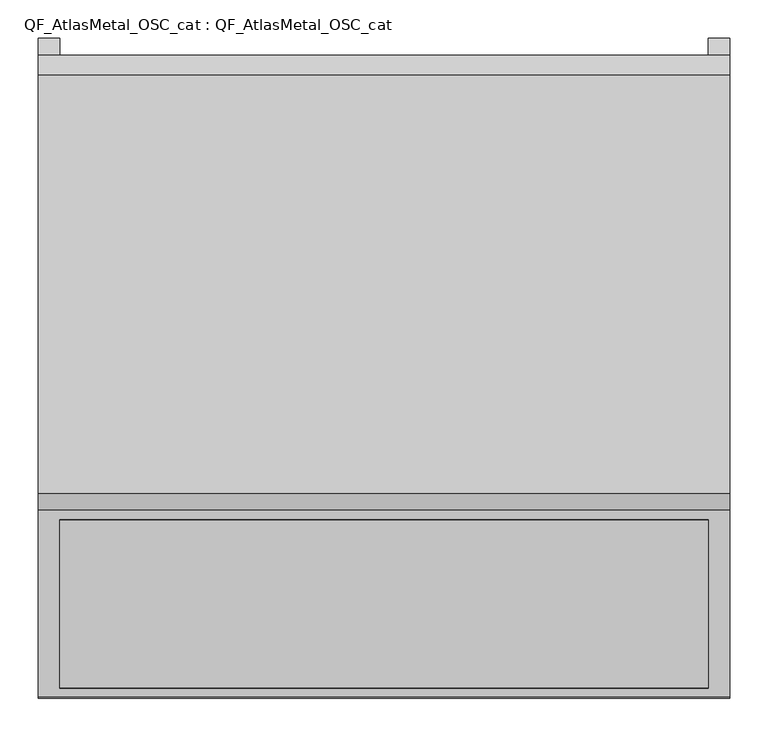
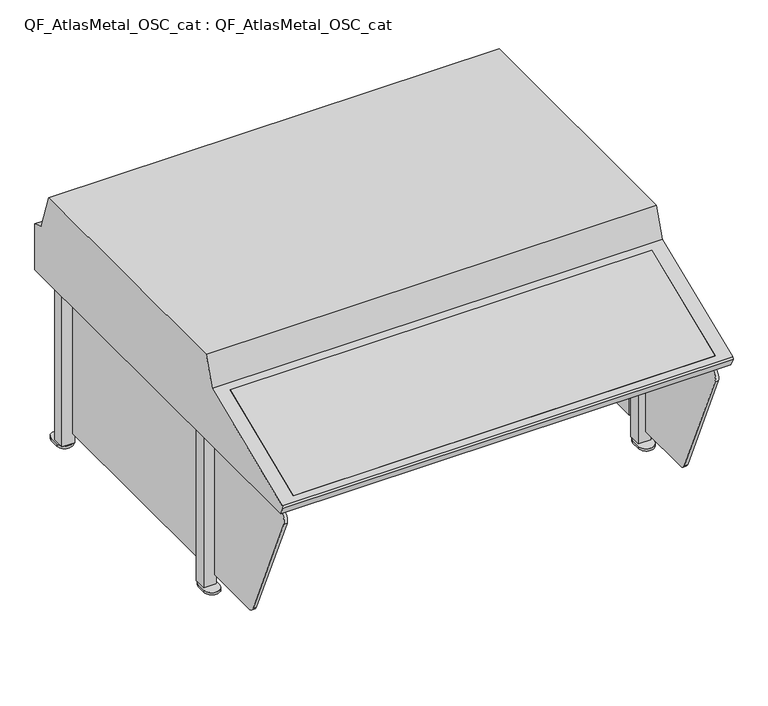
"""IFC4 building model written with IfcOpenShell, lengths in millimetres: proxy geometry, QF_AtlasMetal_OSC_cat : QF_AtlasMetal_OSC_cat."""

from ifc_helpers import new_model, si_unit, point, frame, frame_2d, origin, origin_with_axes, place, context, project, spatial, polyline, circle_curve, trimmed, segment, composite_curve, outline, extrude, source, transform, mapped, element, save
from ifc_brep_helpers import plane_surface, cylinder_surface, advanced_brep


def qf_atlasmetal_osc_cat_qf_atlasmetal_osc_cat_4fe1f685(model_context):
    return source(origin(), model_context, "Body", "SolidModel", [
        extrude(outline(composite_curve([segment(polyline([(-880.5035504, 314.325), (-652.4625, 314.325), (-652.4625, 38.1), (-772.9345504, 38.1)]), True, "CONTINUOUS"), segment(trimmed(circle_curve(frame_2d((-772.9345504, 53.975)), 15.875), [point((-772.9345504, 38.1))], [point((-787.4651765, 47.5815245))], False, "CARTESIAN"), True, "CONTINUOUS"), segment(polyline([(-787.4651765, 47.5815245), (-895.0341765, 292.0565245)]), True, "CONTINUOUS"), segment(trimmed(circle_curve(frame_2d((-880.5035504, 298.45)), 15.875), [point((-895.0341765, 292.0565245))], [point((-880.5035504, 314.325))], False, "CARTESIAN"), True, "CONTINUOUS")], self_intersect=False)), frame((490.4555745, 0.0, 0.0), z_axis=(1.0, 0.0, 0.0), x_axis=(0.0, 1.0, 0.0)), (0.0, 0.0, 1.0), 6.35),
        extrude(outline(composite_curve([segment(polyline([(-652.4625, 38.1), (-772.9345504, 38.1)]), True, "CONTINUOUS"), segment(trimmed(circle_curve(frame_2d((-772.9345504, 53.975)), 15.875), [point((-772.9345504, 38.1))], [point((-787.4651765, 47.5815245))], False, "CARTESIAN"), True, "CONTINUOUS"), segment(polyline([(-787.4651765, 47.5815245), (-895.0341765, 292.0565245)]), True, "CONTINUOUS"), segment(trimmed(circle_curve(frame_2d((-880.5035504, 298.45)), 15.875), [point((-895.0341765, 292.0565245))], [point((-880.5035504, 314.325))], False, "CARTESIAN"), True, "CONTINUOUS"), segment(polyline([(-880.5035504, 314.325), (-652.4625, 314.325), (-652.4625, 38.1)]), True, "CONTINUOUS")], self_intersect=False)), frame((-379.4944255, 0.0, 0.0), z_axis=(1.0, 0.0, 0.0), x_axis=(0.0, 1.0, 0.0)), (0.0, 0.0, 1.0), 6.35),
        extrude(outline(polyline([(496.8055745, -157.1625), (496.8055745, -595.3125), (490.4555745, -595.3125), (490.4555745, -157.1625), (496.8055745, -157.1625)])), frame((0.0, 0.0, 38.1), z_axis=(0.0, 0.0, 1.0), x_axis=(1.0, 0.0, 0.0)), (0.0, 0.0, 1.0), 276.225),
        extrude(outline(polyline([(-373.1444255, -157.1625), (-373.1444255, -595.3125), (-379.4944255, -595.3125), (-379.4944255, -157.1625), (-373.1444255, -157.1625)])), frame((0.0, 0.0, 38.1), z_axis=(0.0, 0.0, 1.0), x_axis=(1.0, 0.0, 0.0)), (0.0, 0.0, 1.0), 276.225),
        extrude(outline(polyline([(0.0, -239.1278346), (0.0, 0.0), (850.9, 0.0), (850.9, -239.1278346), (0.0, -239.1278346)])), frame((484.1055745, -900.6055322, 343.6355938), z_axis=(0.0, -0.383537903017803, 0.9235251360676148), x_axis=(-1.0, 0.0, 0.0)), (0.0, 0.0, 1.0), 12.7),
        advanced_brep(
        [(512.6805745, -52.3875, 330.2), (512.6805745, -52.3875, 427.7307482), (512.6805745, -74.8913474, 436.3231263), (512.6805745, -101.4095, 512.7625), (512.6805745, -650.6845, 512.7625), (512.6805745, -671.5919793, 452.4960611), (512.6805745, -917.2052328, 350.4934317), (512.6805745, -918.8936252, 346.2825443), (512.6805745, -911.8173057, 330.2), (-395.3694255, -911.8173057, 330.2), (-395.3694255, -918.8936252, 346.2825443), (-395.3694255, -917.2052328, 350.4934317), (-395.3694255, -671.5919793, 452.4960611), (-395.3694255, -650.6845, 512.7625), (-395.3694255, -101.4095, 512.7625), (-395.3694255, -74.8913474, 436.3231263), (-395.3694255, -52.3875, 427.7307482), (-395.3694255, -52.3875, 330.2), (-366.7944255, -52.3875, 330.2), (-366.7944255, -895.0257605, 330.2), (484.1055745, -895.0257605, 330.2), (484.1055745, -52.3875, 330.2), (484.1055745, -74.8913474, 436.3231263), (-366.7944255, -74.8913474, 436.3231263), (484.1055745, -684.6358976, 447.0789513), (484.1055745, -905.4764636, 355.3643631), (-366.7944255, -905.4764636, 355.3643631), (-366.7944255, -684.6358976, 447.0789513), (484.1055745, -679.7649662, 435.3501821), (484.1055745, -661.4604519, 442.9520056), (484.1055745, -641.6478248, 500.0625), (484.1055745, -110.4461752, 500.0625), (484.1055745, -90.3863302, 442.2393924), (484.1055745, -52.3875, 427.7307482), (-366.7944255, -679.7649662, 435.3501821), (-366.7944255, -52.3875, 427.7307482), (-366.7944255, -90.3863302, 442.2393924), (-366.7944255, -110.4461752, 500.0625), (-366.7944255, -641.6478248, 500.0625), (-366.7944255, -661.4604519, 442.9520056)],
        [
            (0, 1),
            (1, 2),
            (2, 3),
            (3, 4),
            (4, 5),
            (5, 6),
            (6, 7, circle_curve(frame((512.6805745, -915.9875, 347.5612394), z_axis=(1.0, 0.0, 0.0), x_axis=(0.0, 1.0, 0.0)), 3.175)),
            (7, 8),
            (8, 0),
            (9, 10),
            (10, 11, circle_curve(frame((-395.3694255, -915.9875, 347.5612394), z_axis=(-1.0, 0.0, 0.0), x_axis=(0.0, 1.0, 0.0)), 3.175)),
            (11, 12),
            (12, 13),
            (13, 14),
            (14, 15),
            (15, 16),
            (16, 17),
            (17, 9),
            (8, 9),
            (17, 18),
            (18, 19),
            (19, 20),
            (20, 21),
            (21, 0),
            (2, 22),
            (22, 23),
            (23, 15),
            (14, 3),
            (13, 4),
            (12, 5),
            (11, 6),
            (24, 25),
            (25, 26),
            (26, 27),
            (27, 24),
            (10, 7),
            (24, 28),
            (28, 29),
            (29, 30),
            (30, 31),
            (31, 32),
            (32, 22),
            (22, 33),
            (33, 21),
            (20, 25),
            (34, 27),
            (26, 19),
            (18, 35),
            (35, 23),
            (23, 36),
            (36, 37),
            (37, 38),
            (38, 39),
            (39, 34),
            (34, 28),
            (39, 29),
            (38, 30),
            (37, 31),
            (36, 32),
            (16, 35),
            (33, 1),
        ],
        [
            plane_surface(frame((512.6805745, -52.3875, 330.2), z_axis=(1.0, 0.0, 0.0), x_axis=(0.0, 1.0, 0.0))),
            plane_surface(frame((-395.3694255, -52.3875, 330.2), z_axis=(-1.0, 0.0, 0.0), x_axis=(0.0, -1.0, 0.0))),
            plane_surface(frame((512.6805745, -911.8173057, 330.2), z_axis=(0.0, 0.0, -1.0), x_axis=(-1.0, 0.0, 0.0))),
            plane_surface(frame((512.6805745, -74.8913474, 436.3231263), z_axis=(0.0, 0.9447628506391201, 0.3277547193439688), x_axis=(-1.0, 0.0, 0.0))),
            plane_surface(frame((512.6805745, -101.4095, 512.7625), z_axis=(0.0, 0.0, 1.0), x_axis=(-1.0, 0.0, 0.0))),
            plane_surface(frame((512.6805745, -650.6845, 512.7625), z_axis=(0.0, -0.9447628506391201, 0.3277547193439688), x_axis=(-1.0, 0.0, 0.0))),
            plane_surface(frame((512.6805745, -671.5919793, 452.4960611), z_axis=(0.0, -0.3835379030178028, 0.9235251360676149), x_axis=(-1.0, 0.0, 0.0))),
            cylinder_surface(frame((-395.3694255, -915.9875, 347.5612394), z_axis=(1.0, 0.0, 0.0), x_axis=(0.0, 1.0, 0.0)), 3.175),
            plane_surface(frame((512.6805745, -918.8936252, 346.2825443), z_axis=(0.0, -0.9153150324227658, -0.40273861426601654), x_axis=(-1.0, 0.0, 0.0))),
            plane_surface(frame((484.1055745, -905.4764636, 355.3643631), z_axis=(-1.0000000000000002, 0.0, 0.0), x_axis=(0.0, 0.38353790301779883, -0.9235251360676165))),
            plane_surface(frame((-366.7944255, -905.4764636, 355.3643631), z_axis=(1.0000000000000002, 0.0, 0.0), x_axis=(0.0, -0.38353790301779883, 0.9235251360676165))),
            plane_surface(frame((484.1055745, -636.0963331, 330.2), z_axis=(0.0, -0.9235251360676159, -0.38353790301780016), x_axis=(-1.0, 0.0, 0.0))),
            plane_surface(frame((512.6805745, -895.0257605, 330.2), z_axis=(0.0, 0.9235251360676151, 0.3835379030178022), x_axis=(-1.0, 0.0, 0.0))),
            plane_surface(frame((512.6805745, -900.6055322, 343.6355938), z_axis=(0.0, 0.3835379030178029, -0.9235251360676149), x_axis=(-1.0, 0.0, 0.0))),
            plane_surface(frame((512.6805745, -661.4604519, 442.9520056), z_axis=(0.0, 0.94476285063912, -0.32775471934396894), x_axis=(-1.0, 0.0, 0.0))),
            plane_surface(frame((512.6805745, -641.6478248, 500.0625), z_axis=(0.0, 0.0, -1.0), x_axis=(-1.0, 0.0, 0.0))),
            plane_surface(frame((512.6805745, -110.4461752, 500.0625), z_axis=(0.0, -0.9447628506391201, -0.3277547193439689), x_axis=(-1.0, 0.0, 0.0))),
            plane_surface(frame((512.6805745, -90.3863302, 442.2393924), z_axis=(0.0, -0.35670156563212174, -0.9342183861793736), x_axis=(-1.0, 0.0, 0.0))),
            plane_surface(frame((-366.7944255, -52.3875, 330.2), z_axis=(0.0, 1.0, 0.0), x_axis=(-1.0, 0.0, 0.0))),
            plane_surface(frame((-366.7944255, -52.3875, 427.7307482), z_axis=(0.0, 0.3567015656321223, 0.9342183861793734), x_axis=(-1.0, 0.0, 0.0))),
            plane_surface(frame((512.6805745, -52.3875, 330.2), z_axis=(0.0, 1.0, 0.0), x_axis=(-1.0, 0.0, 0.0))),
            plane_surface(frame((512.6805745, -52.3875, 427.7307482), z_axis=(0.0, 0.35670156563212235, 0.9342183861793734), x_axis=(-1.0, 0.0, 0.0))),
        ],
        [
            (0, [[1, 2, 3, 4, 5, 6, 7, 8, 9]]),
            (1, [[10, 11, 12, 13, 14, 15, 16, 17, 18]]),
            (2, [[-9, 19, -18, 20, 21, 22, 23, 24]]),
            (3, [[-3, 25, 26, 27, -15, 28]]),
            (4, [[-4, -28, -14, 29]]),
            (5, [[-5, -29, -13, 30]]),
            (6, [[-6, -30, -12, 31], [32, 33, 34, 35]]),
            (7, [[-7, -31, -11, 36]]),
            (8, [[-8, -36, -10, -19]]),
            (9, [[-32, 37, 38, 39, 40, 41, 42, 43, 44, -23, 45]]),
            (10, [[46, -34, 47, -21, 48, 49, 50, 51, 52, 53, 54]]),
            (11, [[-37, -35, -46, 55]]),
            (12, [[-45, -22, -47, -33]]),
            (13, [[-55, -54, 56, -38]]),
            (14, [[-53, 57, -39, -56]]),
            (15, [[-52, 58, -40, -57]]),
            (16, [[-51, 59, -41, -58]]),
            (17, [[-50, -26, -42, -59]]),
            (18, [[-48, -20, -17, 60]]),
            (19, [[-60, -16, -27, -49]]),
            (20, [[-44, 61, -1, -24]]),
            (21, [[-61, -43, -25, -2]]),
        ],
    ),
        extrude(outline(polyline([(-366.7944255, -141.2875), (-392.1944255, -141.2875), (-392.1944255, -115.8875), (-366.7944255, -115.8875), (-366.7944255, -141.2875)])), frame((0.0, 0.0, 4.7625), z_axis=(0.0, 0.0, 1.0), x_axis=(1.0, 0.0, 0.0)), (0.0, 0.0, 1.0), 325.4375),
        extrude(outline(polyline([(-366.7944255, -611.1875), (-366.7944255, -636.5875), (-392.1944255, -636.5875), (-392.1944255, -611.1875), (-366.7944255, -611.1875)])), frame((0.0, 0.0, 4.7625), z_axis=(0.0, 0.0, 1.0), x_axis=(1.0, 0.0, 0.0)), (0.0, 0.0, 1.0), 325.4375),
        extrude(outline(polyline([(484.1055745, -141.2875), (484.1055745, -115.8875), (509.5055745, -115.8875), (509.5055745, -141.2875), (484.1055745, -141.2875)])), frame((0.0, 0.0, 4.7625), z_axis=(0.0, 0.0, 1.0), x_axis=(1.0, 0.0, 0.0)), (0.0, 0.0, 1.0), 325.4375),
        extrude(outline(polyline([(509.5055745, -611.1875), (509.5055745, -636.5875), (484.1055745, -636.5875), (484.1055745, -611.1875), (509.5055745, -611.1875)])), frame((0.0, 0.0, 4.7625), z_axis=(0.0, 0.0, 1.0), x_axis=(1.0, 0.0, 0.0)), (0.0, 0.0, 1.0), 325.4375),
        extrude(outline(composite_curve([segment(trimmed(circle_curve(frame_2d((-379.4944255, -109.5375)), 15.875), [point((-395.3694255, -109.5375))], [point((-363.6194255, -109.5375))], False, "CARTESIAN"), True, "CONTINUOUS"), segment(polyline([(-363.6194255, -109.5375), (-363.6194255, -128.5875)]), True, "CONTINUOUS"), segment(trimmed(circle_curve(frame_2d((-379.4944255, -128.5875)), 15.875), [point((-363.6194255, -128.5875))], [point((-395.3694255, -128.5875))], False, "CARTESIAN"), True, "CONTINUOUS"), segment(polyline([(-395.3694255, -128.5875), (-395.3694255, -109.5375)]), True, "CONTINUOUS")], self_intersect=False)), origin_with_axes(), (0.0, 0.0, 1.0), 4.7625),
        extrude(outline(composite_curve([segment(trimmed(circle_curve(frame_2d((496.8055745, -109.5375)), 15.875), [point((480.9305745, -109.5375))], [point((512.6805745, -109.5375))], False, "CARTESIAN"), True, "CONTINUOUS"), segment(polyline([(512.6805745, -109.5375), (512.6805745, -128.5875)]), True, "CONTINUOUS"), segment(trimmed(circle_curve(frame_2d((496.8055745, -128.5875)), 15.875), [point((512.6805745, -128.5875))], [point((480.9305745, -128.5875))], False, "CARTESIAN"), True, "CONTINUOUS"), segment(polyline([(480.9305745, -128.5875), (480.9305745, -109.5375)]), True, "CONTINUOUS")], self_intersect=False)), origin_with_axes(), (0.0, 0.0, 1.0), 4.7625),
        extrude(outline(composite_curve([segment(trimmed(circle_curve(frame_2d((-379.4944255, -623.8875)), 15.875), [point((-395.3694255, -623.8875))], [point((-363.6194255, -623.8875))], False, "CARTESIAN"), True, "CONTINUOUS"), segment(polyline([(-363.6194255, -623.8875), (-363.6194255, -642.9375)]), True, "CONTINUOUS"), segment(trimmed(circle_curve(frame_2d((-379.4944255, -642.9375)), 15.875), [point((-363.6194255, -642.9375))], [point((-395.3694255, -642.9375))], False, "CARTESIAN"), True, "CONTINUOUS"), segment(polyline([(-395.3694255, -642.9375), (-395.3694255, -623.8875)]), True, "CONTINUOUS")], self_intersect=False)), origin_with_axes(), (0.0, 0.0, 1.0), 4.7625),
        extrude(outline(composite_curve([segment(trimmed(circle_curve(frame_2d((496.8055745, -623.8875)), 15.875), [point((480.9305745, -623.8875))], [point((512.6805745, -623.8875))], False, "CARTESIAN"), True, "CONTINUOUS"), segment(polyline([(512.6805745, -623.8875), (512.6805745, -642.9375)]), True, "CONTINUOUS"), segment(trimmed(circle_curve(frame_2d((496.8055745, -642.9375)), 15.875), [point((512.6805745, -642.9375))], [point((480.9305745, -642.9375))], False, "CARTESIAN"), True, "CONTINUOUS"), segment(polyline([(480.9305745, -642.9375), (480.9305745, -623.8875)]), True, "CONTINUOUS")], self_intersect=False)), origin_with_axes(), (0.0, 0.0, 1.0), 4.7625),
    ])


if __name__ == "__main__":
    model = new_model("IFC4")
    model_context = context("Model", 3, world=origin())
    ifc_project = project(units=[si_unit("LENGTHUNIT", "METRE", prefix="MILLI")], contexts=[model_context])
    site = spatial("IfcSite", under=ifc_project)
    building = spatial("IfcBuilding", under=site)
    placement = place(None, origin())
    qf_atlasmetal_osc_cat_qf_atlasmetal_osc_cat_shape = qf_atlasmetal_osc_cat_qf_atlasmetal_osc_cat_4fe1f685(model_context)
    element("IfcBuildingElementProxy", 1, Name="QF_AtlasMetal_OSC_cat : QF_AtlasMetal_OSC_cat", ObjectType="QF_AtlasMetal_OSC_cat : QF_AtlasMetal_OSC_cat", at=placement, inside=building, context=model_context, shape_type="MappedRepresentation", body=[
        mapped(qf_atlasmetal_osc_cat_qf_atlasmetal_osc_cat_shape, transform((0.0, 0.0, 0.0), x_axis=(1.0, 0.0, 0.0), y_axis=(0.0, 1.0, 0.0), z_axis=(0.0, 0.0, 1.0))),
    ])
    save(model, "model.ifc")
